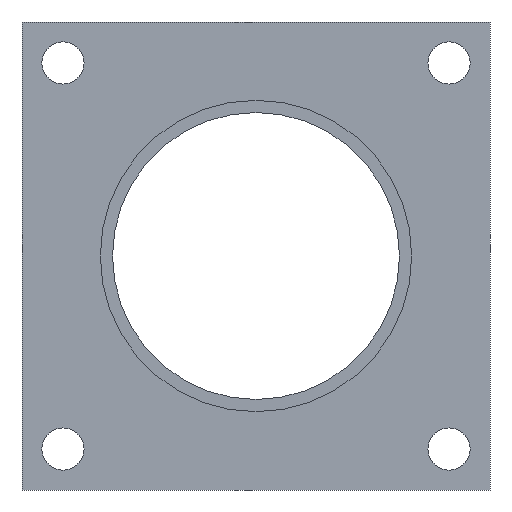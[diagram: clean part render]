
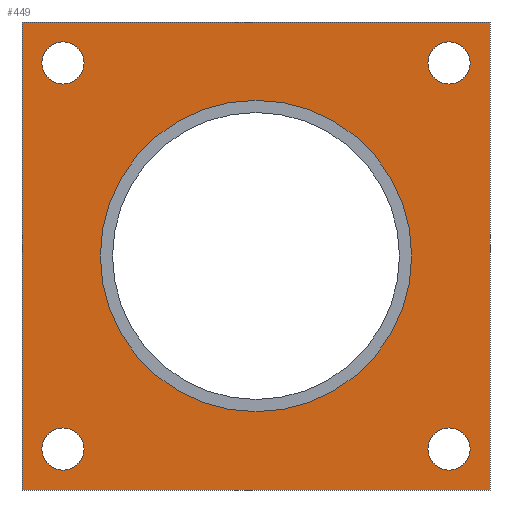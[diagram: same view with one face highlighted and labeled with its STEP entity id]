
A CAD part, left-side view. The second image highlights one B-rep face of the part: STEP entity #449.
In plain terms, the highlighted planar face has unit normal (-1, 0, 0).
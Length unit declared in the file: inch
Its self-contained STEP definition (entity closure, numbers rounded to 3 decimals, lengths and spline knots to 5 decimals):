
#6=DIRECTION('',(0.,-1.,0.));
#7=VECTOR('',#6,2.25);
#8=CARTESIAN_POINT('',(-0.265,1.125,-1.125));
#9=LINE('',#8,#7);
#76=DIRECTION('',(0.,0.,1.));
#77=VECTOR('',#76,2.25);
#78=CARTESIAN_POINT('',(-0.265,-1.125,-1.125));
#79=LINE('',#78,#77);
#80=DIRECTION('',(0.,0.,1.));
#81=VECTOR('',#80,2.25);
#82=CARTESIAN_POINT('',(-0.265,1.125,-1.125));
#83=LINE('',#82,#81);
#84=CARTESIAN_POINT('',(-0.265,0.,0.));
#85=DIRECTION('',(-1.,0.,0.));
#86=DIRECTION('',(0.,1.,0.));
#87=AXIS2_PLACEMENT_3D('',#84,#85,#86);
#89=CARTESIAN_POINT('',(-0.265,0.,0.));
#90=DIRECTION('',(-1.,0.,0.));
#91=DIRECTION('',(0.,-1.,0.));
#92=AXIS2_PLACEMENT_3D('',#89,#90,#91);
#94=CARTESIAN_POINT('',(-0.265,-0.928,0.928));
#95=DIRECTION('',(-1.,0.,0.));
#96=DIRECTION('',(0.,-1.,0.));
#97=AXIS2_PLACEMENT_3D('',#94,#95,#96);
#99=CARTESIAN_POINT('',(-0.265,-0.928,0.928));
#100=DIRECTION('',(-1.,0.,0.));
#101=DIRECTION('',(0.,1.,0.));
#102=AXIS2_PLACEMENT_3D('',#99,#100,#101);
#104=CARTESIAN_POINT('',(-0.265,-0.928,-0.928));
#105=DIRECTION('',(1.,0.,0.));
#106=DIRECTION('',(0.,-1.,0.));
#107=AXIS2_PLACEMENT_3D('',#104,#105,#106);
#109=CARTESIAN_POINT('',(-0.265,-0.928,-0.928));
#110=DIRECTION('',(1.,0.,0.));
#111=DIRECTION('',(0.,1.,0.));
#112=AXIS2_PLACEMENT_3D('',#109,#110,#111);
#114=CARTESIAN_POINT('',(-0.265,0.928,0.928));
#115=DIRECTION('',(1.,0.,0.));
#116=DIRECTION('',(0.,1.,0.));
#117=AXIS2_PLACEMENT_3D('',#114,#115,#116);
#119=CARTESIAN_POINT('',(-0.265,0.928,0.928));
#120=DIRECTION('',(1.,0.,0.));
#121=DIRECTION('',(0.,-1.,0.));
#122=AXIS2_PLACEMENT_3D('',#119,#120,#121);
#124=CARTESIAN_POINT('',(-0.265,0.928,-0.928));
#125=DIRECTION('',(-1.,0.,0.));
#126=DIRECTION('',(0.,1.,0.));
#127=AXIS2_PLACEMENT_3D('',#124,#125,#126);
#129=CARTESIAN_POINT('',(-0.265,0.928,-0.928));
#130=DIRECTION('',(-1.,0.,0.));
#131=DIRECTION('',(0.,-1.,0.));
#132=AXIS2_PLACEMENT_3D('',#129,#130,#131);
#146=DIRECTION('',(0.,-1.,0.));
#147=VECTOR('',#146,2.25);
#148=CARTESIAN_POINT('',(-0.265,1.125,1.125));
#149=LINE('',#148,#147);
#247=CARTESIAN_POINT('',(-0.265,1.125,-1.125));
#249=VERTEX_POINT('',#247);
#250=CARTESIAN_POINT('',(-0.265,-1.125,-1.125));
#251=VERTEX_POINT('',#250);
#255=CARTESIAN_POINT('',(-0.265,1.125,1.125));
#257=VERTEX_POINT('',#255);
#258=CARTESIAN_POINT('',(-0.265,-1.125,1.125));
#259=VERTEX_POINT('',#258);
#266=CARTESIAN_POINT('',(-0.265,0.7485,0.));
#267=CARTESIAN_POINT('',(-0.265,-0.7485,0.));
#268=VERTEX_POINT('',#266);
#269=VERTEX_POINT('',#267);
#286=CARTESIAN_POINT('',(-0.265,-1.02956,0.928));
#287=CARTESIAN_POINT('',(-0.265,-0.82644,0.928));
#288=VERTEX_POINT('',#286);
#289=VERTEX_POINT('',#287);
#294=CARTESIAN_POINT('',(-0.265,-1.02956,-0.928));
#295=CARTESIAN_POINT('',(-0.265,-0.82644,-0.928));
#296=VERTEX_POINT('',#294);
#297=VERTEX_POINT('',#295);
#302=CARTESIAN_POINT('',(-0.265,1.02956,0.928));
#303=CARTESIAN_POINT('',(-0.265,0.82644,0.928));
#304=VERTEX_POINT('',#302);
#305=VERTEX_POINT('',#303);
#310=CARTESIAN_POINT('',(-0.265,1.02956,-0.928));
#311=CARTESIAN_POINT('',(-0.265,0.82644,-0.928));
#312=VERTEX_POINT('',#310);
#313=VERTEX_POINT('',#311);
#407=CARTESIAN_POINT('',(-0.265,1.125,-1.125));
#408=DIRECTION('',(-1.,0.,0.));
#409=DIRECTION('',(0.,-1.,0.));
#410=AXIS2_PLACEMENT_3D('',#407,#408,#409);
#411=PLANE('',#410);
#412=ORIENTED_EDGE('',*,*,#325,.F.);
#413=ORIENTED_EDGE('',*,*,#344,.T.);
#415=ORIENTED_EDGE('',*,*,#414,.T.);
#416=ORIENTED_EDGE('',*,*,#399,.F.);
#417=EDGE_LOOP('',(#412,#413,#415,#416));
#418=FACE_OUTER_BOUND('',#417,.F.);
#420=ORIENTED_EDGE('',*,*,#419,.T.);
#422=ORIENTED_EDGE('',*,*,#421,.T.);
#423=EDGE_LOOP('',(#420,#422));
#424=FACE_BOUND('',#423,.F.);
#426=ORIENTED_EDGE('',*,*,#425,.T.);
#428=ORIENTED_EDGE('',*,*,#427,.T.);
#429=EDGE_LOOP('',(#426,#428));
#430=FACE_BOUND('',#429,.F.);
#432=ORIENTED_EDGE('',*,*,#431,.F.);
#434=ORIENTED_EDGE('',*,*,#433,.F.);
#435=EDGE_LOOP('',(#432,#434));
#436=FACE_BOUND('',#435,.F.);
#438=ORIENTED_EDGE('',*,*,#437,.F.);
#440=ORIENTED_EDGE('',*,*,#439,.F.);
#441=EDGE_LOOP('',(#438,#440));
#442=FACE_BOUND('',#441,.F.);
#444=ORIENTED_EDGE('',*,*,#443,.T.);
#446=ORIENTED_EDGE('',*,*,#445,.T.);
#447=EDGE_LOOP('',(#444,#446));
#448=FACE_BOUND('',#447,.F.);
#449=ADVANCED_FACE('',(#418,#424,#430,#436,#442,#448),#411,.T.);
#88=CIRCLE('',#87,0.7485);
#93=CIRCLE('',#92,0.7485);
#98=CIRCLE('',#97,0.10156);
#103=CIRCLE('',#102,0.10156);
#108=CIRCLE('',#107,0.10156);
#113=CIRCLE('',#112,0.10156);
#118=CIRCLE('',#117,0.10156);
#123=CIRCLE('',#122,0.10156);
#128=CIRCLE('',#127,0.10156);
#133=CIRCLE('',#132,0.10156);
#325=EDGE_CURVE('',#249,#251,#9,.T.);
#344=EDGE_CURVE('',#249,#257,#83,.T.);
#399=EDGE_CURVE('',#251,#259,#79,.T.);
#414=EDGE_CURVE('',#257,#259,#149,.T.);
#419=EDGE_CURVE('',#268,#269,#88,.T.);
#421=EDGE_CURVE('',#269,#268,#93,.T.);
#425=EDGE_CURVE('',#288,#289,#98,.T.);
#427=EDGE_CURVE('',#289,#288,#103,.T.);
#431=EDGE_CURVE('',#296,#297,#108,.T.);
#433=EDGE_CURVE('',#297,#296,#113,.T.);
#437=EDGE_CURVE('',#304,#305,#118,.T.);
#439=EDGE_CURVE('',#305,#304,#123,.T.);
#443=EDGE_CURVE('',#312,#313,#128,.T.);
#445=EDGE_CURVE('',#313,#312,#133,.T.);
